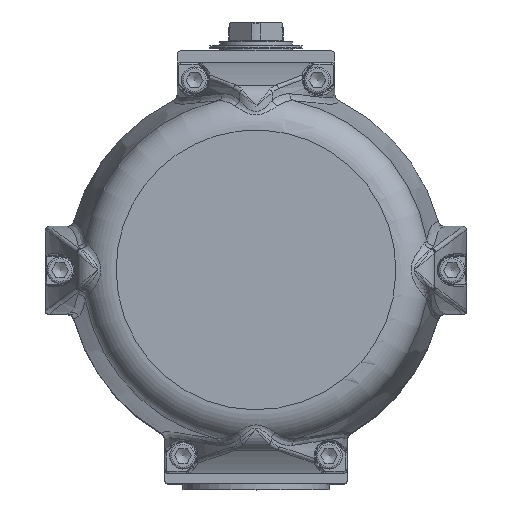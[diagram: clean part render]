
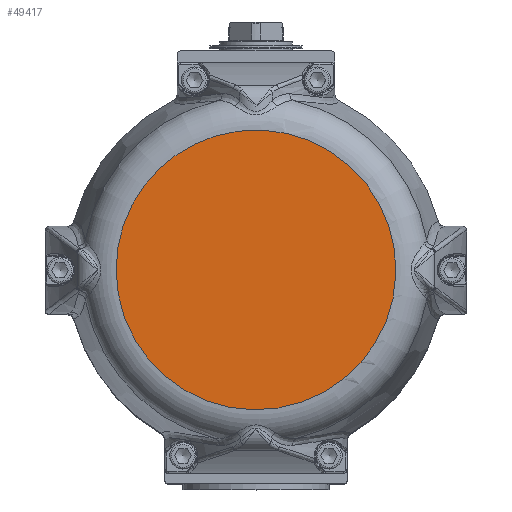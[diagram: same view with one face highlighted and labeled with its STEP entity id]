
A CAD part, top view. The second image highlights one B-rep face of the part: STEP entity #49417.
In plain terms, the highlighted planar face has unit normal (0, 0, 1).
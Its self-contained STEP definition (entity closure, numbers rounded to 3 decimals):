
#37399=CARTESIAN_POINT('',(-95.678,0.,275.1));
#37400=VERTEX_POINT('',#37399);
#37401=CARTESIAN_POINT('',(0.,0.,275.1));
#37402=DIRECTION('',(0.0,0.0,-1.0));
#37403=DIRECTION('',(-1.0,0.0,0.0));
#37404=AXIS2_PLACEMENT_3D('',#37401,#37402,#37403);
#37405=CIRCLE('',#37404,95.678);
#37406=EDGE_CURVE('',#37400,#37400,#37405,.T.);
#49409=CARTESIAN_POINT('',(-47.839,0.,275.1));
#49410=DIRECTION('',(0.0,0.0,1.0));
#49411=DIRECTION('',(0.0,-1.0,0.0));
#49412=AXIS2_PLACEMENT_3D('',#49409,#49410,#49411);
#49413=PLANE('',#49412);
#49414=ORIENTED_EDGE('',*,*,#37406,.F.);
#49415=EDGE_LOOP('',(#49414));
#49416=FACE_OUTER_BOUND('',#49415,.T.);
#49417=ADVANCED_FACE('',(#49416),#49413,.T.);
